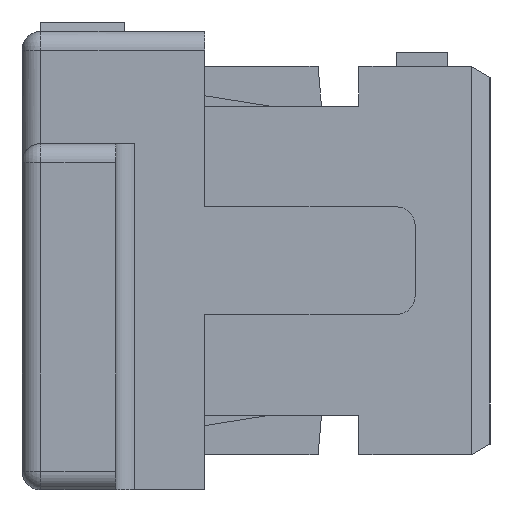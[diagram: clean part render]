
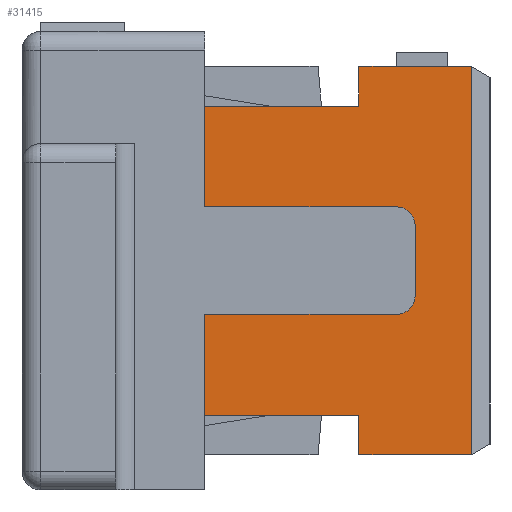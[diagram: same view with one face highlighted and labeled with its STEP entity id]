
A CAD part, left-side view. The second image highlights one B-rep face of the part: STEP entity #31415.
In plain terms, the highlighted planar face has unit normal (-1, 0, 0).
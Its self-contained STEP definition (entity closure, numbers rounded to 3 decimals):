
#3265=DIRECTION('',(0.,1.,0.));
#3266=VECTOR('',#3265,1.65);
#3267=CARTESIAN_POINT('',(1.3,-3.6,-0.8));
#3268=LINE('',#3267,#3266);
#3281=DIRECTION('',(0.,1.,0.));
#3282=VECTOR('',#3281,1.65);
#3283=CARTESIAN_POINT('',(1.3,-3.6,-4.1));
#3284=LINE('',#3283,#3282);
#3285=DIRECTION('',(0.,0.,1.));
#3286=VECTOR('',#3285,1.075);
#3287=CARTESIAN_POINT('',(1.3,-1.95,-4.1));
#3288=LINE('',#3287,#3286);
#3289=DIRECTION('',(0.,-1.,0.));
#3290=VECTOR('',#3289,2.05);
#3291=CARTESIAN_POINT('',(1.3,-1.95,-3.025));
#3292=LINE('',#3291,#3290);
#3293=CARTESIAN_POINT('',(1.3,-4.,-2.825));
#3294=DIRECTION('',(-1.,0.,0.));
#3295=DIRECTION('',(0.,0.,-1.));
#3296=AXIS2_PLACEMENT_3D('',#3293,#3294,#3295);
#3298=DIRECTION('',(0.,0.,1.));
#3299=VECTOR('',#3298,0.75);
#3300=CARTESIAN_POINT('',(1.3,-4.2,-2.825));
#3301=LINE('',#3300,#3299);
#3302=CARTESIAN_POINT('',(1.3,-4.,-2.075));
#3303=DIRECTION('',(-1.,0.,0.));
#3304=DIRECTION('',(0.,-1.,0.));
#3305=AXIS2_PLACEMENT_3D('',#3302,#3303,#3304);
#3307=DIRECTION('',(0.,1.,0.));
#3308=VECTOR('',#3307,2.05);
#3309=CARTESIAN_POINT('',(1.3,-4.,-1.875));
#3310=LINE('',#3309,#3308);
#3311=DIRECTION('',(0.,0.,1.));
#3312=VECTOR('',#3311,1.075);
#3313=CARTESIAN_POINT('',(1.3,-1.95,-1.875));
#3314=LINE('',#3313,#3312);
#3315=DIRECTION('',(0.,0.,1.));
#3316=VECTOR('',#3315,0.425);
#3317=CARTESIAN_POINT('',(1.3,-3.6,-0.8));
#3318=LINE('',#3317,#3316);
#3319=DIRECTION('',(0.,-1.,0.));
#3320=VECTOR('',#3319,1.2);
#3321=CARTESIAN_POINT('',(1.3,-3.6,-0.375));
#3322=LINE('',#3321,#3320);
#3323=DIRECTION('',(0.,1.,0.));
#3324=VECTOR('',#3323,1.2);
#3325=CARTESIAN_POINT('',(1.3,-4.8,-4.525));
#3326=LINE('',#3325,#3324);
#3343=DIRECTION('',(0.,0.,-1.));
#3344=VECTOR('',#3343,0.425);
#3345=CARTESIAN_POINT('',(1.3,-3.6,-4.1));
#3346=LINE('',#3345,#3344);
#12111=DIRECTION('',(0.,0.,1.));
#12112=VECTOR('',#12111,4.15);
#12113=CARTESIAN_POINT('',(1.3,-4.8,-4.525));
#12114=LINE('',#12113,#12112);
#22285=CARTESIAN_POINT('',(1.3,-3.6,-0.375));
#22286=CARTESIAN_POINT('',(1.3,-4.8,-0.375));
#22287=VERTEX_POINT('',#22285);
#22288=VERTEX_POINT('',#22286);
#22581=CARTESIAN_POINT('',(1.3,-1.95,-0.8));
#22582=VERTEX_POINT('',#22581);
#22583=CARTESIAN_POINT('',(1.3,-1.95,-1.875));
#22584=VERTEX_POINT('',#22583);
#22719=CARTESIAN_POINT('',(1.3,-3.6,-0.8));
#22720=VERTEX_POINT('',#22719);
#23139=CARTESIAN_POINT('',(1.3,-4.,-1.875));
#23140=VERTEX_POINT('',#23139);
#23141=CARTESIAN_POINT('',(1.3,-3.6,-4.1));
#23142=CARTESIAN_POINT('',(1.3,-1.95,-4.1));
#23143=VERTEX_POINT('',#23141);
#23144=VERTEX_POINT('',#23142);
#23145=CARTESIAN_POINT('',(1.3,-1.95,-3.025));
#23146=VERTEX_POINT('',#23145);
#23147=CARTESIAN_POINT('',(1.3,-4.,-3.025));
#23148=VERTEX_POINT('',#23147);
#23149=CARTESIAN_POINT('',(1.3,-4.2,-2.825));
#23150=VERTEX_POINT('',#23149);
#23151=CARTESIAN_POINT('',(1.3,-4.2,-2.075));
#23152=VERTEX_POINT('',#23151);
#23153=CARTESIAN_POINT('',(1.3,-4.8,-4.525));
#23154=VERTEX_POINT('',#23153);
#23155=CARTESIAN_POINT('',(1.3,-3.6,-4.525));
#23156=VERTEX_POINT('',#23155);
#31383=CARTESIAN_POINT('',(1.3,0.,0.));
#31384=DIRECTION('',(-1.,0.,0.));
#31385=DIRECTION('',(0.,0.,1.));
#31386=AXIS2_PLACEMENT_3D('',#31383,#31384,#31385);
#31387=PLANE('',#31386);
#31389=ORIENTED_EDGE('',*,*,#31388,.T.);
#31391=ORIENTED_EDGE('',*,*,#31390,.T.);
#31393=ORIENTED_EDGE('',*,*,#31392,.T.);
#31395=ORIENTED_EDGE('',*,*,#31394,.T.);
#31397=ORIENTED_EDGE('',*,*,#31396,.T.);
#31399=ORIENTED_EDGE('',*,*,#31398,.T.);
#31401=ORIENTED_EDGE('',*,*,#31400,.T.);
#31403=ORIENTED_EDGE('',*,*,#31402,.T.);
#31404=ORIENTED_EDGE('',*,*,#31358,.F.);
#31405=ORIENTED_EDGE('',*,*,#31373,.T.);
#31406=ORIENTED_EDGE('',*,*,#29833,.T.);
#31408=ORIENTED_EDGE('',*,*,#31407,.F.);
#31410=ORIENTED_EDGE('',*,*,#31409,.T.);
#31412=ORIENTED_EDGE('',*,*,#31411,.F.);
#31413=EDGE_LOOP('',(#31389,#31391,#31393,#31395,#31397,#31399,#31401,#31403,
#31404,#31405,#31406,#31408,#31410,#31412));
#31414=FACE_OUTER_BOUND('',#31413,.F.);
#31415=ADVANCED_FACE('',(#31414),#31387,.T.);
#3297=CIRCLE('',#3296,0.2);
#3306=CIRCLE('',#3305,0.2);
#29833=EDGE_CURVE('',#22287,#22288,#3322,.T.);
#31358=EDGE_CURVE('',#22720,#22582,#3268,.T.);
#31373=EDGE_CURVE('',#22720,#22287,#3318,.T.);
#31388=EDGE_CURVE('',#23143,#23144,#3284,.T.);
#31390=EDGE_CURVE('',#23144,#23146,#3288,.T.);
#31392=EDGE_CURVE('',#23146,#23148,#3292,.T.);
#31394=EDGE_CURVE('',#23148,#23150,#3297,.T.);
#31396=EDGE_CURVE('',#23150,#23152,#3301,.T.);
#31398=EDGE_CURVE('',#23152,#23140,#3306,.T.);
#31400=EDGE_CURVE('',#23140,#22584,#3310,.T.);
#31402=EDGE_CURVE('',#22584,#22582,#3314,.T.);
#31407=EDGE_CURVE('',#23154,#22288,#12114,.T.);
#31409=EDGE_CURVE('',#23154,#23156,#3326,.T.);
#31411=EDGE_CURVE('',#23143,#23156,#3346,.T.);
